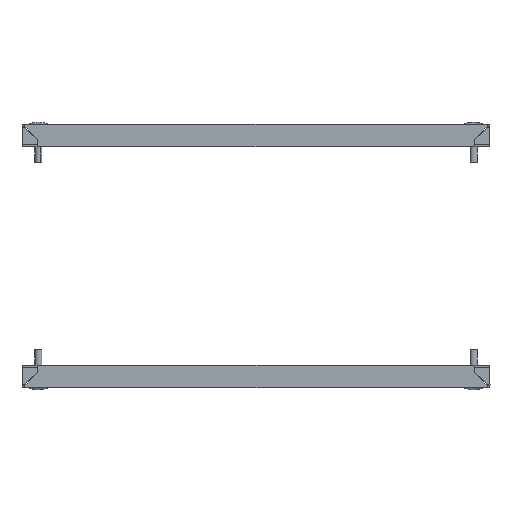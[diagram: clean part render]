
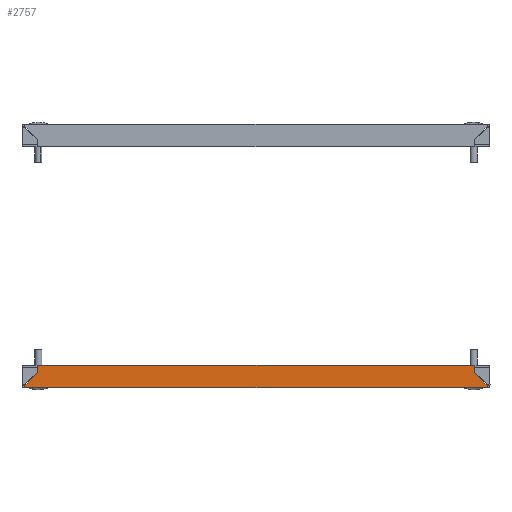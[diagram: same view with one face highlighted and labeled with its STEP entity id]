
A CAD part, front view. The second image highlights one B-rep face of the part: STEP entity #2757.
In plain terms, the highlighted planar face has unit normal (0, -1, 0).
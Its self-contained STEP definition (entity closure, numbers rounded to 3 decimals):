
#27 = ORIENTED_EDGE ( 'NONE', *, *, #2014, .F. ) ;
#267 = CARTESIAN_POINT ( 'NONE',  ( -197.723, -50., -1.5 ) ) ;
#368 = VECTOR ( 'NONE', #5512, 1000. ) ;
#461 = EDGE_CURVE ( 'NONE', #8468, #1694, #8470, .T. ) ;
#906 = DIRECTION ( 'NONE',  ( -1., 0., 0. ) ) ;
#970 = CARTESIAN_POINT ( 'NONE',  ( -197.723, -50., -1.5 ) ) ;
#1313 = VECTOR ( 'NONE', #906, 1000. ) ;
#1517 = CARTESIAN_POINT ( 'NONE',  ( -197.704, -50., -1.149 ) ) ;
#1544 = CARTESIAN_POINT ( 'NONE',  ( -186.5, -50., 11.646 ) ) ;
#1647 = VERTEX_POINT ( 'NONE', #3279 ) ;
#1694 = VERTEX_POINT ( 'NONE', #6893 ) ;
#1751 = ORIENTED_EDGE ( 'NONE', *, *, #5667, .T. ) ;
#1974 = LINE ( 'NONE', #7227, #3256 ) ;
#1980 = EDGE_LOOP ( 'NONE', ( #3097, #1751, #5572, #2997, #4035, #4387, #8522, #27 ) ) ;
#2014 = EDGE_CURVE ( 'NONE', #4282, #6923, #2511, .T. ) ;
#2238 = CARTESIAN_POINT ( 'NONE',  ( 197.704, -50., -1.149 ) ) ;
#2301 = CARTESIAN_POINT ( 'NONE',  ( 197.546, -50., 0.6 ) ) ;
#2405 = CARTESIAN_POINT ( 'NONE',  ( 197.681, -50., -0.799 ) ) ;
#2423 = VERTEX_POINT ( 'NONE', #6228 ) ;
#2433 = LINE ( 'NONE', #5460, #368 ) ;
#2461 = VERTEX_POINT ( 'NONE', #267 ) ;
#2496 = CARTESIAN_POINT ( 'NONE',  ( -197.584, -50., 0.251 ) ) ;
#2511 = B_SPLINE_CURVE_WITH_KNOTS ( 'NONE', 3,
 ( #2301, #6288, #3266, #2405, #2238, #5485 ),
 .UNSPECIFIED., .F., .F.,
 ( 4, 2, 4 ),
 ( 0.005, 0.006, 0.008 ),
 .UNSPECIFIED. ) ;
#2757 = ADVANCED_FACE ( 'NONE', ( #4979 ), #6590, .F. ) ;
#2997 = ORIENTED_EDGE ( 'NONE', *, *, #461, .T. ) ;
#3097 = ORIENTED_EDGE ( 'NONE', *, *, #6419, .F. ) ;
#3256 = VECTOR ( 'NONE', #3359, 1000. ) ;
#3266 = CARTESIAN_POINT ( 'NONE',  ( 197.621, -50., -0.099 ) ) ;
#3279 = CARTESIAN_POINT ( 'NONE',  ( -197.546, -50., 0.6 ) ) ;
#3359 = DIRECTION ( 'NONE',  ( 1., 0., 0. ) ) ;
#3417 = VECTOR ( 'NONE', #8178, 1000. ) ;
#3681 = EDGE_CURVE ( 'NONE', #1647, #1694, #8476, .T. ) ;
#3860 = CARTESIAN_POINT ( 'NONE',  ( -197.546, -50., 0.6 ) ) ;
#3960 = LINE ( 'NONE', #9325, #1313 ) ;
#4035 = ORIENTED_EDGE ( 'NONE', *, *, #3681, .F. ) ;
#4049 = DIRECTION ( 'NONE',  ( 0.707, 0., 0.707 ) ) ;
#4183 = CARTESIAN_POINT ( 'NONE',  ( 0., -50., 0. ) ) ;
#4275 = CARTESIAN_POINT ( 'NONE',  ( 197.723, -50., -1.5 ) ) ;
#4282 = VERTEX_POINT ( 'NONE', #5703 ) ;
#4387 = ORIENTED_EDGE ( 'NONE', *, *, #4912, .T. ) ;
#4604 = CARTESIAN_POINT ( 'NONE',  ( -186.5, -50., 17.5 ) ) ;
#4786 = EDGE_CURVE ( 'NONE', #2461, #6923, #1974, .T. ) ;
#4912 = EDGE_CURVE ( 'NONE', #1647, #2461, #7890, .T. ) ;
#4979 = FACE_OUTER_BOUND ( 'NONE', #1980, .T. ) ;
#5460 = CARTESIAN_POINT ( 'NONE',  ( -82.084, -50., 280.23 ) ) ;
#5485 = CARTESIAN_POINT ( 'NONE',  ( 197.723, -50., -1.5 ) ) ;
#5512 = DIRECTION ( 'NONE',  ( 0.707, 0., -0.707 ) ) ;
#5572 = ORIENTED_EDGE ( 'NONE', *, *, #6406, .T. ) ;
#5646 = LINE ( 'NONE', #5702, #3417 ) ;
#5657 = DIRECTION ( 'NONE',  ( 0., 0., -1. ) ) ;
#5667 = EDGE_CURVE ( 'NONE', #7427, #2423, #5646, .T. ) ;
#5702 = CARTESIAN_POINT ( 'NONE',  ( 186.5, -50., 11.646 ) ) ;
#5703 = CARTESIAN_POINT ( 'NONE',  ( 197.546, -50., 0.6 ) ) ;
#6228 = CARTESIAN_POINT ( 'NONE',  ( 186.5, -50., 17.5 ) ) ;
#6288 = CARTESIAN_POINT ( 'NONE',  ( 197.584, -50., 0.251 ) ) ;
#6406 = EDGE_CURVE ( 'NONE', #2423, #8468, #3960, .T. ) ;
#6419 = EDGE_CURVE ( 'NONE', #7427, #4282, #2433, .T. ) ;
#6590 = PLANE ( 'NONE',  #9793 ) ;
#6893 = CARTESIAN_POINT ( 'NONE',  ( -186.5, -50., 11.646 ) ) ;
#6923 = VERTEX_POINT ( 'NONE', #4275 ) ;
#7118 = CARTESIAN_POINT ( 'NONE',  ( -197.621, -50., -0.099 ) ) ;
#7227 = CARTESIAN_POINT ( 'NONE',  ( 0., -50., -1.5 ) ) ;
#7288 = DIRECTION ( 'NONE',  ( 0., 1., 0. ) ) ;
#7427 = VERTEX_POINT ( 'NONE', #7832 ) ;
#7769 = CARTESIAN_POINT ( 'NONE',  ( -197.546, -50., 0.6 ) ) ;
#7832 = CARTESIAN_POINT ( 'NONE',  ( 186.5, -50., 11.646 ) ) ;
#7886 = CARTESIAN_POINT ( 'NONE',  ( -197.681, -50., -0.799 ) ) ;
#7890 = B_SPLINE_CURVE_WITH_KNOTS ( 'NONE', 3,
 ( #3860, #2496, #7118, #7886, #1517, #970 ),
 .UNSPECIFIED., .F., .F.,
 ( 4, 2, 4 ),
 ( 0.005, 0.006, 0.008 ),
 .UNSPECIFIED. ) ;
#8178 = DIRECTION ( 'NONE',  ( 0., 0., 1. ) ) ;
#8468 = VERTEX_POINT ( 'NONE', #4604 ) ;
#8470 = LINE ( 'NONE', #1544, #9643 ) ;
#8476 = LINE ( 'NONE', #7769, #9176 ) ;
#8522 = ORIENTED_EDGE ( 'NONE', *, *, #4786, .T. ) ;
#9176 = VECTOR ( 'NONE', #4049, 1000. ) ;
#9325 = CARTESIAN_POINT ( 'NONE',  ( 0., -50., 17.5 ) ) ;
#9643 = VECTOR ( 'NONE', #5657, 1000. ) ;
#9649 = DIRECTION ( 'NONE',  ( 0., 0., 1. ) ) ;
#9793 = AXIS2_PLACEMENT_3D ( 'NONE', #4183, #7288, #9649 ) ;
